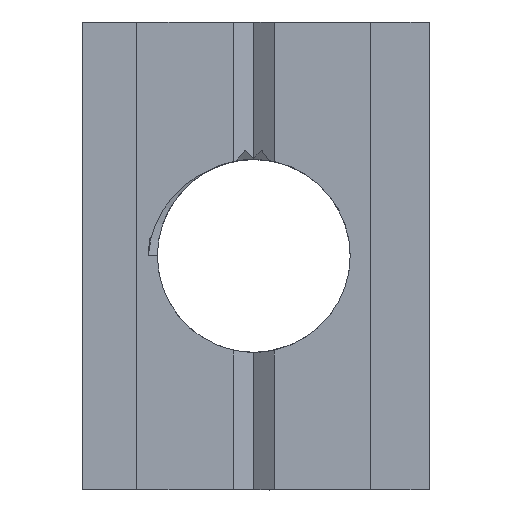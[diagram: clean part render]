
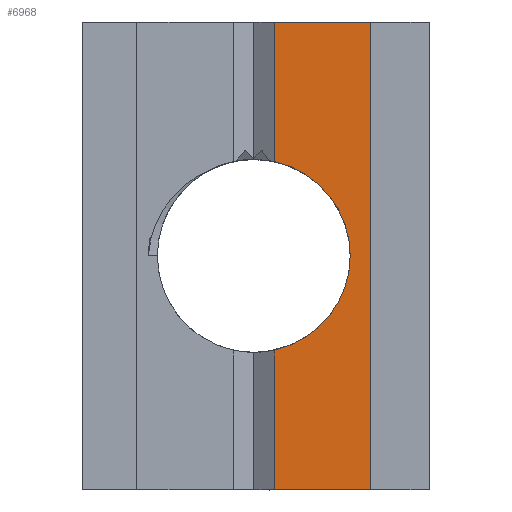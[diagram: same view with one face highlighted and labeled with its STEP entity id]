
A CAD part, top view. The second image highlights one B-rep face of the part: STEP entity #6968.
In plain terms, the highlighted planar face has unit normal (0, 0, 1).
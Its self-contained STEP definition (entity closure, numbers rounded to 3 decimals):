
#2054 = CYLINDRICAL_SURFACE('',#2055,3.3);
#2055 = AXIS2_PLACEMENT_3D('',#2056,#2057,#2058);
#2056 = CARTESIAN_POINT('',(5.85,8.,4.8));
#2057 = DIRECTION('',(-0.,-0.,1.));
#2058 = DIRECTION('',(0.,-1.,0.));
#2096 = VERTEX_POINT('',#2097);
#2097 = CARTESIAN_POINT('',(6.556,11.224,4.8));
#2134 = PLANE('',#2135);
#2135 = AXIS2_PLACEMENT_3D('',#2136,#2137,#2138);
#2136 = CARTESIAN_POINT('',(5.85,16.,4.288));
#2137 = DIRECTION('',(-0.587,0.,0.81));
#2138 = DIRECTION('',(0.,1.,0.));
#2146 = EDGE_CURVE('',#2096,#2147,#2149,.T.);
#2147 = VERTEX_POINT('',#2148);
#2148 = CARTESIAN_POINT('',(6.556,4.776,4.8));
#2149 = SURFACE_CURVE('',#2150,(#2155,#2162),.PCURVE_S1.);
#2150 = CIRCLE('',#2151,3.3);
#2151 = AXIS2_PLACEMENT_3D('',#2152,#2153,#2154);
#2152 = CARTESIAN_POINT('',(5.85,8.,4.8));
#2153 = DIRECTION('',(0.,0.,-1.));
#2154 = DIRECTION('',(0.,-1.,0.));
#2155 = PCURVE('',#2054,#2156);
#2156 = DEFINITIONAL_REPRESENTATION('',(#2157),#2161);
#2157 = LINE('',#2158,#2159);
#2158 = CARTESIAN_POINT('',(6.283,0.));
#2159 = VECTOR('',#2160,1.);
#2160 = DIRECTION('',(-1.,0.));
#2161 = ( GEOMETRIC_REPRESENTATION_CONTEXT(2) 
PARAMETRIC_REPRESENTATION_CONTEXT() REPRESENTATION_CONTEXT('2D SPACE',''
  ) );
#2162 = PCURVE('',#2163,#2168);
#2163 = PLANE('',#2164);
#2164 = AXIS2_PLACEMENT_3D('',#2165,#2166,#2167);
#2165 = CARTESIAN_POINT('',(6.556,16.,4.8));
#2166 = DIRECTION('',(0.,0.,1.));
#2167 = DIRECTION('',(1.,-0.,0.));
#2168 = DEFINITIONAL_REPRESENTATION('',(#2169),#2177);
#2169 = ( BOUNDED_CURVE() B_SPLINE_CURVE(2,(#2170,#2171,#2172,#2173,
#2174,#2175,#2176),.UNSPECIFIED.,.T.,.F.) B_SPLINE_CURVE_WITH_KNOTS((1,2
    ,2,2,2,1),(-2.094,0.,2.094,4.189,
6.283,8.378),.UNSPECIFIED.) CURVE() 
GEOMETRIC_REPRESENTATION_ITEM() RATIONAL_B_SPLINE_CURVE((1.,0.5,1.,0.5,
1.,0.5,1.)) REPRESENTATION_ITEM('') );
#2170 = CARTESIAN_POINT('',(-0.706,-11.3));
#2171 = CARTESIAN_POINT('',(-6.422,-11.3));
#2172 = CARTESIAN_POINT('',(-3.564,-6.35));
#2173 = CARTESIAN_POINT('',(-0.706,-1.4));
#2174 = CARTESIAN_POINT('',(2.152,-6.35));
#2175 = CARTESIAN_POINT('',(5.01,-11.3));
#2176 = CARTESIAN_POINT('',(-0.706,-11.3));
#2177 = ( GEOMETRIC_REPRESENTATION_CONTEXT(2) 
PARAMETRIC_REPRESENTATION_CONTEXT() REPRESENTATION_CONTEXT('2D SPACE',''
  ) );
#2218 = PLANE('',#2219);
#2219 = AXIS2_PLACEMENT_3D('',#2220,#2221,#2222);
#2220 = CARTESIAN_POINT('',(5.85,16.,4.288));
#2221 = DIRECTION('',(-0.587,0.,0.81));
#2222 = DIRECTION('',(0.,1.,0.));
#2278 = PLANE('',#2279);
#2279 = AXIS2_PLACEMENT_3D('',#2280,#2281,#2282);
#2280 = CARTESIAN_POINT('',(4.039,0.,3.5));
#2281 = DIRECTION('',(0.,-1.,0.));
#2282 = DIRECTION('',(0.,0.,-1.));
#2483 = PLANE('',#2484);
#2484 = AXIS2_PLACEMENT_3D('',#2485,#2486,#2487);
#2485 = CARTESIAN_POINT('',(4.039,16.,3.5));
#2486 = DIRECTION('',(0.,-1.,0.));
#2487 = DIRECTION('',(0.,0.,-1.));
#5655 = VERTEX_POINT('',#5656);
#5656 = CARTESIAN_POINT('',(6.556,0.,4.8));
#5677 = EDGE_CURVE('',#2147,#5655,#5678,.T.);
#5678 = SURFACE_CURVE('',#5679,(#5683,#5690),.PCURVE_S1.);
#5679 = LINE('',#5680,#5681);
#5680 = CARTESIAN_POINT('',(6.556,16.,4.8));
#5681 = VECTOR('',#5682,1.);
#5682 = DIRECTION('',(0.,-1.,0.));
#5683 = PCURVE('',#2218,#5684);
#5684 = DEFINITIONAL_REPRESENTATION('',(#5685),#5689);
#5685 = LINE('',#5686,#5687);
#5686 = CARTESIAN_POINT('',(0.,-0.872));
#5687 = VECTOR('',#5688,1.);
#5688 = DIRECTION('',(-1.,-0.));
#5689 = ( GEOMETRIC_REPRESENTATION_CONTEXT(2) 
PARAMETRIC_REPRESENTATION_CONTEXT() REPRESENTATION_CONTEXT('2D SPACE',''
  ) );
#5690 = PCURVE('',#2163,#5691);
#5691 = DEFINITIONAL_REPRESENTATION('',(#5692),#5696);
#5692 = LINE('',#5693,#5694);
#5693 = CARTESIAN_POINT('',(0.,0.));
#5694 = VECTOR('',#5695,1.);
#5695 = DIRECTION('',(0.,-1.));
#5696 = ( GEOMETRIC_REPRESENTATION_CONTEXT(2) 
PARAMETRIC_REPRESENTATION_CONTEXT() REPRESENTATION_CONTEXT('2D SPACE',''
  ) );
#6554 = VERTEX_POINT('',#6555);
#6555 = CARTESIAN_POINT('',(9.85,0.,4.8));
#6569 = PLANE('',#6570);
#6570 = AXIS2_PLACEMENT_3D('',#6571,#6572,#6573);
#6571 = CARTESIAN_POINT('',(9.85,16.,4.8));
#6572 = DIRECTION('',(1.,0.,0.));
#6573 = DIRECTION('',(0.,1.,-0.));
#6581 = EDGE_CURVE('',#6554,#5655,#6582,.T.);
#6582 = SURFACE_CURVE('',#6583,(#6587,#6594),.PCURVE_S1.);
#6583 = LINE('',#6584,#6585);
#6584 = CARTESIAN_POINT('',(6.556,0.,4.8));
#6585 = VECTOR('',#6586,1.);
#6586 = DIRECTION('',(-1.,0.,0.));
#6587 = PCURVE('',#2278,#6588);
#6588 = DEFINITIONAL_REPRESENTATION('',(#6589),#6593);
#6589 = LINE('',#6590,#6591);
#6590 = CARTESIAN_POINT('',(-1.3,2.517));
#6591 = VECTOR('',#6592,1.);
#6592 = DIRECTION('',(0.,-1.));
#6593 = ( GEOMETRIC_REPRESENTATION_CONTEXT(2) 
PARAMETRIC_REPRESENTATION_CONTEXT() REPRESENTATION_CONTEXT('2D SPACE',''
  ) );
#6594 = PCURVE('',#2163,#6595);
#6595 = DEFINITIONAL_REPRESENTATION('',(#6596),#6600);
#6596 = LINE('',#6597,#6598);
#6597 = CARTESIAN_POINT('',(0.,-16.));
#6598 = VECTOR('',#6599,1.);
#6599 = DIRECTION('',(-1.,0.));
#6600 = ( GEOMETRIC_REPRESENTATION_CONTEXT(2) 
PARAMETRIC_REPRESENTATION_CONTEXT() REPRESENTATION_CONTEXT('2D SPACE',''
  ) );
#6754 = VERTEX_POINT('',#6755);
#6755 = CARTESIAN_POINT('',(6.556,16.,4.8));
#6776 = EDGE_CURVE('',#6777,#6754,#6779,.T.);
#6777 = VERTEX_POINT('',#6778);
#6778 = CARTESIAN_POINT('',(9.85,16.,4.8));
#6779 = SURFACE_CURVE('',#6780,(#6784,#6791),.PCURVE_S1.);
#6780 = LINE('',#6781,#6782);
#6781 = CARTESIAN_POINT('',(6.556,16.,4.8));
#6782 = VECTOR('',#6783,1.);
#6783 = DIRECTION('',(-1.,0.,0.));
#6784 = PCURVE('',#2483,#6785);
#6785 = DEFINITIONAL_REPRESENTATION('',(#6786),#6790);
#6786 = LINE('',#6787,#6788);
#6787 = CARTESIAN_POINT('',(-1.3,2.517));
#6788 = VECTOR('',#6789,1.);
#6789 = DIRECTION('',(0.,-1.));
#6790 = ( GEOMETRIC_REPRESENTATION_CONTEXT(2) 
PARAMETRIC_REPRESENTATION_CONTEXT() REPRESENTATION_CONTEXT('2D SPACE',''
  ) );
#6791 = PCURVE('',#2163,#6792);
#6792 = DEFINITIONAL_REPRESENTATION('',(#6793),#6797);
#6793 = LINE('',#6794,#6795);
#6794 = CARTESIAN_POINT('',(0.,0.));
#6795 = VECTOR('',#6796,1.);
#6796 = DIRECTION('',(-1.,0.));
#6797 = ( GEOMETRIC_REPRESENTATION_CONTEXT(2) 
PARAMETRIC_REPRESENTATION_CONTEXT() REPRESENTATION_CONTEXT('2D SPACE',''
  ) );
#6875 = EDGE_CURVE('',#6754,#2096,#6876,.T.);
#6876 = SURFACE_CURVE('',#6877,(#6881,#6888),.PCURVE_S1.);
#6877 = LINE('',#6878,#6879);
#6878 = CARTESIAN_POINT('',(6.556,16.,4.8));
#6879 = VECTOR('',#6880,1.);
#6880 = DIRECTION('',(0.,-1.,0.));
#6881 = PCURVE('',#2134,#6882);
#6882 = DEFINITIONAL_REPRESENTATION('',(#6883),#6887);
#6883 = LINE('',#6884,#6885);
#6884 = CARTESIAN_POINT('',(0.,-0.872));
#6885 = VECTOR('',#6886,1.);
#6886 = DIRECTION('',(-1.,-0.));
#6887 = ( GEOMETRIC_REPRESENTATION_CONTEXT(2) 
PARAMETRIC_REPRESENTATION_CONTEXT() REPRESENTATION_CONTEXT('2D SPACE',''
  ) );
#6888 = PCURVE('',#2163,#6889);
#6889 = DEFINITIONAL_REPRESENTATION('',(#6890),#6894);
#6890 = LINE('',#6891,#6892);
#6891 = CARTESIAN_POINT('',(0.,0.));
#6892 = VECTOR('',#6893,1.);
#6893 = DIRECTION('',(0.,-1.));
#6894 = ( GEOMETRIC_REPRESENTATION_CONTEXT(2) 
PARAMETRIC_REPRESENTATION_CONTEXT() REPRESENTATION_CONTEXT('2D SPACE',''
  ) );
#6968 = ADVANCED_FACE('',(#6969),#2163,.T.);
#6969 = FACE_BOUND('',#6970,.T.);
#6970 = EDGE_LOOP('',(#6971,#6972,#6973,#6974,#6995,#6996));
#6971 = ORIENTED_EDGE('',*,*,#2146,.T.);
#6972 = ORIENTED_EDGE('',*,*,#5677,.T.);
#6973 = ORIENTED_EDGE('',*,*,#6581,.F.);
#6974 = ORIENTED_EDGE('',*,*,#6975,.F.);
#6975 = EDGE_CURVE('',#6777,#6554,#6976,.T.);
#6976 = SURFACE_CURVE('',#6977,(#6981,#6988),.PCURVE_S1.);
#6977 = LINE('',#6978,#6979);
#6978 = CARTESIAN_POINT('',(9.85,16.,4.8));
#6979 = VECTOR('',#6980,1.);
#6980 = DIRECTION('',(0.,-1.,0.));
#6981 = PCURVE('',#2163,#6982);
#6982 = DEFINITIONAL_REPRESENTATION('',(#6983),#6987);
#6983 = LINE('',#6984,#6985);
#6984 = CARTESIAN_POINT('',(3.294,0.));
#6985 = VECTOR('',#6986,1.);
#6986 = DIRECTION('',(0.,-1.));
#6987 = ( GEOMETRIC_REPRESENTATION_CONTEXT(2) 
PARAMETRIC_REPRESENTATION_CONTEXT() REPRESENTATION_CONTEXT('2D SPACE',''
  ) );
#6988 = PCURVE('',#6569,#6989);
#6989 = DEFINITIONAL_REPRESENTATION('',(#6990),#6994);
#6990 = LINE('',#6991,#6992);
#6991 = CARTESIAN_POINT('',(0.,0.));
#6992 = VECTOR('',#6993,1.);
#6993 = DIRECTION('',(-1.,0.));
#6994 = ( GEOMETRIC_REPRESENTATION_CONTEXT(2) 
PARAMETRIC_REPRESENTATION_CONTEXT() REPRESENTATION_CONTEXT('2D SPACE',''
  ) );
#6995 = ORIENTED_EDGE('',*,*,#6776,.T.);
#6996 = ORIENTED_EDGE('',*,*,#6875,.T.);
